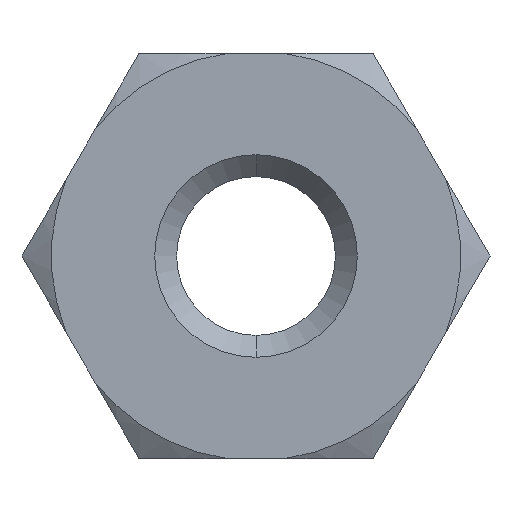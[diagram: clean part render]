
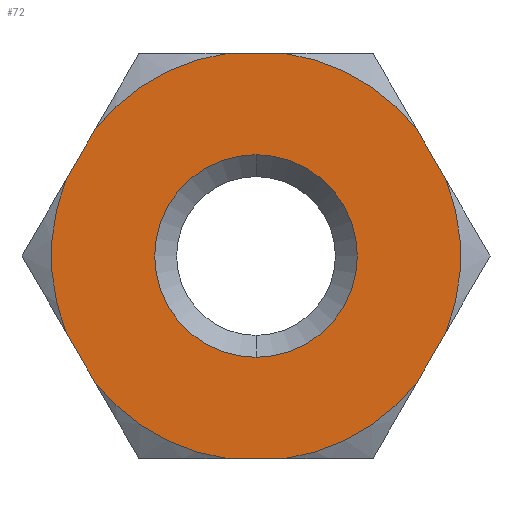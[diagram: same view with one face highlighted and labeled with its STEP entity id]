
A CAD part, left-side view. The second image highlights one B-rep face of the part: STEP entity #72.
In plain terms, the highlighted planar face has unit normal (-1, 0, 0).
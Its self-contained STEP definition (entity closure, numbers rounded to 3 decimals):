
#72=ADVANCED_FACE('',(#124,#98),#290,.T.);
#98=FACE_OUTER_BOUND('',#127,.F.);
#124=FACE_BOUND('',#126,.F.);
#126=EDGE_LOOP('',(#154,#155));
#127=EDGE_LOOP('',(#156,#157,#158,#159,#160,#161,#162,#163,#164,#165,#166,
#167));
#154=ORIENTED_EDGE('',*,*,#372,.T.);
#155=ORIENTED_EDGE('',*,*,#373,.T.);
#156=ORIENTED_EDGE('',*,*,#415,.T.);
#157=ORIENTED_EDGE('',*,*,#404,.F.);
#158=ORIENTED_EDGE('',*,*,#410,.T.);
#159=ORIENTED_EDGE('',*,*,#409,.F.);
#160=ORIENTED_EDGE('',*,*,#411,.T.);
#161=ORIENTED_EDGE('',*,*,#408,.F.);
#162=ORIENTED_EDGE('',*,*,#412,.T.);
#163=ORIENTED_EDGE('',*,*,#405,.F.);
#164=ORIENTED_EDGE('',*,*,#413,.T.);
#165=ORIENTED_EDGE('',*,*,#407,.F.);
#166=ORIENTED_EDGE('',*,*,#414,.T.);
#167=ORIENTED_EDGE('',*,*,#406,.F.);
#290=PLANE('',#524);
#298=LINE('',#876,#322);
#299=LINE('',#877,#323);
#300=LINE('',#878,#324);
#301=LINE('',#879,#325);
#302=LINE('',#880,#326);
#303=LINE('',#881,#327);
#322=VECTOR('',#585,0.567);
#323=VECTOR('',#586,0.567);
#324=VECTOR('',#587,0.567);
#325=VECTOR('',#588,0.567);
#326=VECTOR('',#589,0.567);
#327=VECTOR('',#590,0.567);
#372=EDGE_CURVE('',#499,#498,#440,.T.);
#373=EDGE_CURVE('',#498,#499,#441,.T.);
#404=EDGE_CURVE('',#479,#463,#448,.T.);
#405=EDGE_CURVE('',#467,#471,#449,.T.);
#406=EDGE_CURVE('',#462,#465,#450,.T.);
#407=EDGE_CURVE('',#464,#468,#451,.T.);
#408=EDGE_CURVE('',#470,#474,#452,.T.);
#409=EDGE_CURVE('',#473,#476,#453,.T.);
#410=EDGE_CURVE('',#479,#476,#298,.T.);
#411=EDGE_CURVE('',#473,#474,#299,.T.);
#412=EDGE_CURVE('',#470,#471,#300,.T.);
#413=EDGE_CURVE('',#467,#468,#301,.T.);
#414=EDGE_CURVE('',#464,#465,#302,.T.);
#415=EDGE_CURVE('',#462,#463,#303,.T.);
#440=CIRCLE('',#506,1.);
#441=CIRCLE('',#507,1.);
#448=CIRCLE('',#514,2.02);
#449=CIRCLE('',#515,2.02);
#450=CIRCLE('',#516,2.02);
#451=CIRCLE('',#517,2.02);
#452=CIRCLE('',#518,2.02);
#453=CIRCLE('',#519,2.02);
#462=VERTEX_POINT('',#676);
#463=VERTEX_POINT('',#677);
#464=VERTEX_POINT('',#678);
#465=VERTEX_POINT('',#679);
#467=VERTEX_POINT('',#681);
#468=VERTEX_POINT('',#682);
#470=VERTEX_POINT('',#684);
#471=VERTEX_POINT('',#685);
#473=VERTEX_POINT('',#687);
#474=VERTEX_POINT('',#688);
#476=VERTEX_POINT('',#690);
#479=VERTEX_POINT('',#693);
#498=VERTEX_POINT('',#712);
#499=VERTEX_POINT('',#713);
#506=AXIS2_PLACEMENT_3D('',#718,#557,#558);
#507=AXIS2_PLACEMENT_3D('',#719,#559,#560);
#514=AXIS2_PLACEMENT_3D('',#870,#573,#574);
#515=AXIS2_PLACEMENT_3D('',#871,#575,#576);
#516=AXIS2_PLACEMENT_3D('',#872,#577,#578);
#517=AXIS2_PLACEMENT_3D('',#873,#579,#580);
#518=AXIS2_PLACEMENT_3D('',#874,#581,#582);
#519=AXIS2_PLACEMENT_3D('',#875,#583,#584);
#524=AXIS2_PLACEMENT_3D('',#904,#617,#618);
#557=DIRECTION('',(-1.,0.,0.));
#558=DIRECTION('',(0.,0.,1.));
#559=DIRECTION('',(-1.,0.,0.));
#560=DIRECTION('',(0.,0.,-1.));
#573=DIRECTION('',(-1.,0.,0.));
#574=DIRECTION('',(0.,-0.14,-0.99));
#575=DIRECTION('',(-1.,0.,0.));
#576=DIRECTION('',(0.,0.14,0.99));
#577=DIRECTION('',(-1.,0.,0.));
#578=DIRECTION('',(0.,-0.928,-0.373));
#579=DIRECTION('',(-1.,0.,0.));
#580=DIRECTION('',(0.,-0.787,0.617));
#581=DIRECTION('',(-1.,0.,0.));
#582=DIRECTION('',(0.,0.928,0.373));
#583=DIRECTION('',(-1.,0.,0.));
#584=DIRECTION('',(0.,0.787,-0.617));
#585=DIRECTION('',(0.,1.,0.));
#586=DIRECTION('',(0.,0.5,0.866));
#587=DIRECTION('',(0.,-0.5,0.866));
#588=DIRECTION('',(0.,-1.,0.));
#589=DIRECTION('',(0.,-0.5,-0.866));
#590=DIRECTION('',(0.,0.5,-0.866));
#617=DIRECTION('',(-1.,0.,0.));
#618=DIRECTION('',(0.,-1.,0.));
#676=CARTESIAN_POINT('',(38.065,2.725,326.718));
#677=CARTESIAN_POINT('',(38.065,3.009,326.227));
#678=CARTESIAN_POINT('',(38.065,3.009,328.718));
#679=CARTESIAN_POINT('',(38.065,2.725,328.227));
#681=CARTESIAN_POINT('',(38.065,4.882,329.473));
#682=CARTESIAN_POINT('',(38.065,4.315,329.473));
#684=CARTESIAN_POINT('',(38.065,6.473,328.227));
#685=CARTESIAN_POINT('',(38.065,6.189,328.718));
#687=CARTESIAN_POINT('',(38.065,6.189,326.227));
#688=CARTESIAN_POINT('',(38.065,6.473,326.718));
#690=CARTESIAN_POINT('',(38.065,4.882,325.473));
#693=CARTESIAN_POINT('',(38.065,4.315,325.473));
#712=CARTESIAN_POINT('',(38.065,4.599,326.473));
#713=CARTESIAN_POINT('',(38.065,4.599,328.473));
#718=CARTESIAN_POINT('',(38.065,4.599,327.473));
#719=CARTESIAN_POINT('',(38.065,4.599,327.473));
#870=CARTESIAN_POINT('',(38.065,4.599,327.473));
#871=CARTESIAN_POINT('',(38.065,4.599,327.473));
#872=CARTESIAN_POINT('',(38.065,4.599,327.473));
#873=CARTESIAN_POINT('',(38.065,4.599,327.473));
#874=CARTESIAN_POINT('',(38.065,4.599,327.473));
#875=CARTESIAN_POINT('',(38.065,4.599,327.473));
#876=CARTESIAN_POINT('',(38.065,4.315,325.473));
#877=CARTESIAN_POINT('',(38.065,6.189,326.227));
#878=CARTESIAN_POINT('',(38.065,6.473,328.227));
#879=CARTESIAN_POINT('',(38.065,4.882,329.473));
#880=CARTESIAN_POINT('',(38.065,3.009,328.718));
#881=CARTESIAN_POINT('',(38.065,2.725,326.718));
#904=CARTESIAN_POINT('',(38.065,6.955,325.426));
